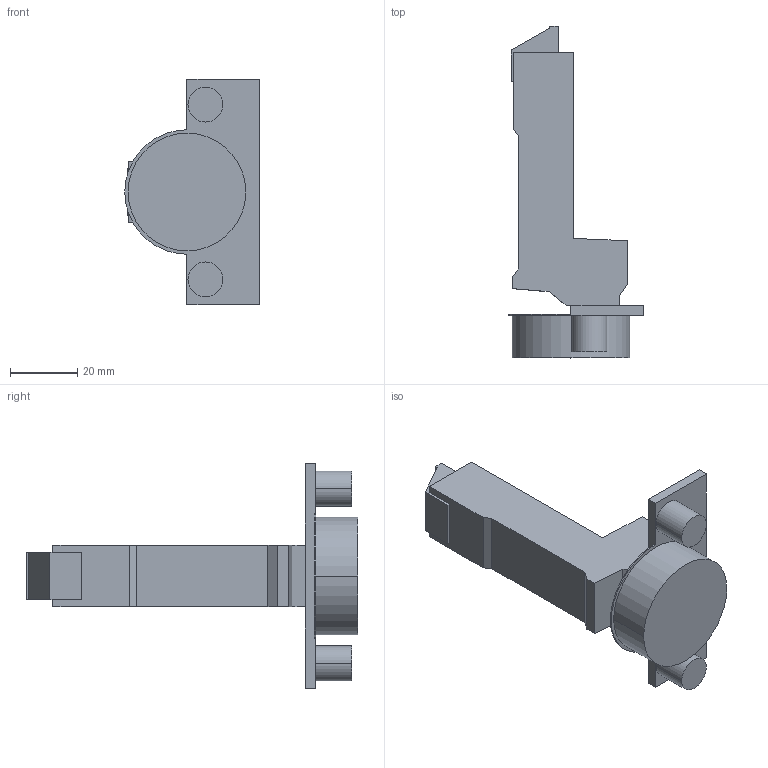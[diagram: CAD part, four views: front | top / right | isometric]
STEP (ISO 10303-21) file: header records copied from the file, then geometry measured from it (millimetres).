
FILE_DESCRIPTION (( 'STEP AP214' ), '1' );
FILE_NAME ('Scharnier T Click-on 110° H_BB, K19_Dübel.step', '2018-09-12T09:10:31', ( '' ), ( '' ), 'SwSTEP 2.0', 'SolidWorks 2017', '' );
FILE_SCHEMA (( 'AUTOMOTIVE_DESIGN' ));
Length unit declared in the file: millimetre
Products named in the file (1): Scharnier T Click-on 110° H_BB, K19_Dübel
Bounding box: 40 x 98.7 x 67 mm (x, y, z)
Volume: 47092.9 mm3; surface area: 13477.9 mm2
Topology: 1 solids, 1 shells, 59 faces, 145 edges, 96 vertices
Faces by surface type: plane 41, cylinder 18
Entity records: 1773 total; most frequent: DIRECTION 301, CARTESIAN_POINT 301, ORIENTED_EDGE 290, EDGE_CURVE 145, LINE 109, VECTOR 109, VERTEX_POINT 96, AXIS2_PLACEMENT_3D 96
